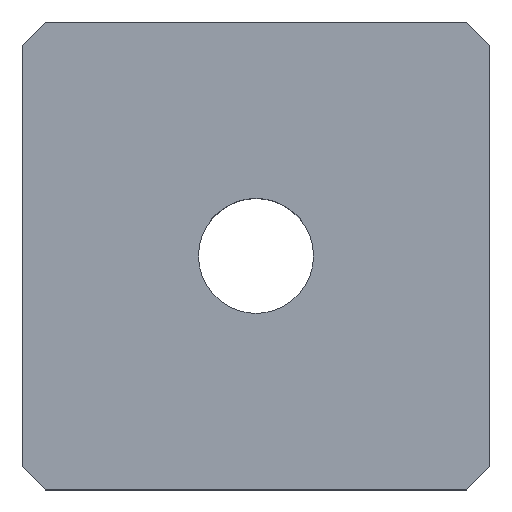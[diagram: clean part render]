
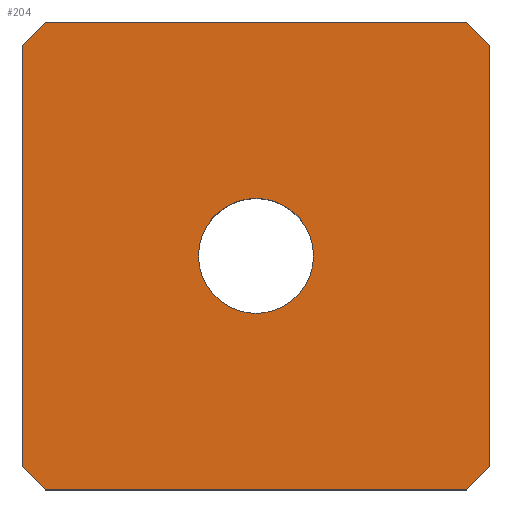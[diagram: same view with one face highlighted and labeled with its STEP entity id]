
A CAD part, top view. The second image highlights one B-rep face of the part: STEP entity #204.
In plain terms, the highlighted planar face has unit normal (0, 0, 1).
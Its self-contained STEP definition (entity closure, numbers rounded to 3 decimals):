
#16=FACE_BOUND('',#33,.T.);
#18=CIRCLE('',#239,2.459);
#21=FACE_OUTER_BOUND('',#32,.T.);
#32=EDGE_LOOP('',(#143,#144,#145,#146,#147,#148,#149,#150));
#33=EDGE_LOOP('',(#151));
#44=LINE('',#307,#69);
#48=LINE('',#315,#73);
#49=LINE('',#317,#74);
#50=LINE('',#319,#75);
#51=LINE('',#321,#76);
#52=LINE('',#323,#77);
#53=LINE('',#325,#78);
#54=LINE('',#326,#79);
#69=VECTOR('',#254,10.);
#73=VECTOR('',#260,10.);
#74=VECTOR('',#261,10.);
#75=VECTOR('',#262,10.);
#76=VECTOR('',#263,10.);
#77=VECTOR('',#264,10.);
#78=VECTOR('',#265,10.);
#79=VECTOR('',#266,10.);
#94=VERTEX_POINT('',#305);
#95=VERTEX_POINT('',#306);
#98=VERTEX_POINT('',#314);
#99=VERTEX_POINT('',#316);
#100=VERTEX_POINT('',#318);
#101=VERTEX_POINT('',#320);
#102=VERTEX_POINT('',#322);
#103=VERTEX_POINT('',#324);
#104=VERTEX_POINT('',#327);
#112=EDGE_CURVE('',#94,#95,#44,.T.);
#116=EDGE_CURVE('',#98,#94,#48,.T.);
#117=EDGE_CURVE('',#99,#98,#49,.T.);
#118=EDGE_CURVE('',#100,#99,#50,.T.);
#119=EDGE_CURVE('',#101,#100,#51,.T.);
#120=EDGE_CURVE('',#102,#101,#52,.T.);
#121=EDGE_CURVE('',#103,#102,#53,.T.);
#122=EDGE_CURVE('',#95,#103,#54,.T.);
#123=EDGE_CURVE('',#104,#104,#18,.T.);
#143=ORIENTED_EDGE('',*,*,#112,.F.);
#144=ORIENTED_EDGE('',*,*,#116,.F.);
#145=ORIENTED_EDGE('',*,*,#117,.F.);
#146=ORIENTED_EDGE('',*,*,#118,.F.);
#147=ORIENTED_EDGE('',*,*,#119,.F.);
#148=ORIENTED_EDGE('',*,*,#120,.F.);
#149=ORIENTED_EDGE('',*,*,#121,.F.);
#150=ORIENTED_EDGE('',*,*,#122,.F.);
#151=ORIENTED_EDGE('',*,*,#123,.T.);
#194=PLANE('',#238);
#204=ADVANCED_FACE('',(#21,#16),#194,.T.);
#238=AXIS2_PLACEMENT_3D('',#313,#258,#259);
#239=AXIS2_PLACEMENT_3D('',#328,#267,#268);
#254=DIRECTION('',(0.707,-0.707,0.));
#258=DIRECTION('center_axis',(0.,0.,1.));
#259=DIRECTION('ref_axis',(1.,0.,0.));
#260=DIRECTION('',(1.,0.,0.));
#261=DIRECTION('',(0.707,0.707,0.));
#262=DIRECTION('',(0.,1.,0.));
#263=DIRECTION('',(-0.707,0.707,0.));
#264=DIRECTION('',(-1.,0.,0.));
#265=DIRECTION('',(-0.707,-0.707,0.));
#266=DIRECTION('',(0.,-1.,0.));
#267=DIRECTION('center_axis',(0.,0.,-1.));
#268=DIRECTION('ref_axis',(1.,0.,0.));
#305=CARTESIAN_POINT('',(19.,20.,5.));
#306=CARTESIAN_POINT('',(20.,19.,5.));
#307=CARTESIAN_POINT('',(19.5,19.5,5.));
#313=CARTESIAN_POINT('Origin',(10.,10.,5.));
#314=CARTESIAN_POINT('',(1.,20.,5.));
#315=CARTESIAN_POINT('',(20.,20.,5.));
#316=CARTESIAN_POINT('',(0.,19.,5.));
#317=CARTESIAN_POINT('',(0.5,19.5,5.));
#318=CARTESIAN_POINT('',(0.,1.,5.));
#319=CARTESIAN_POINT('',(0.,20.,5.));
#320=CARTESIAN_POINT('',(1.,0.,5.));
#321=CARTESIAN_POINT('',(0.5,0.5,5.));
#322=CARTESIAN_POINT('',(19.,0.,5.));
#323=CARTESIAN_POINT('',(0.,0.,5.));
#324=CARTESIAN_POINT('',(20.,1.,5.));
#325=CARTESIAN_POINT('',(19.5,0.5,5.));
#326=CARTESIAN_POINT('',(20.,0.,5.));
#327=CARTESIAN_POINT('',(7.542,10.,5.));
#328=CARTESIAN_POINT('Origin',(10.,10.,5.));
